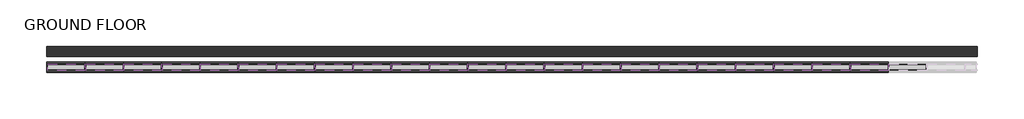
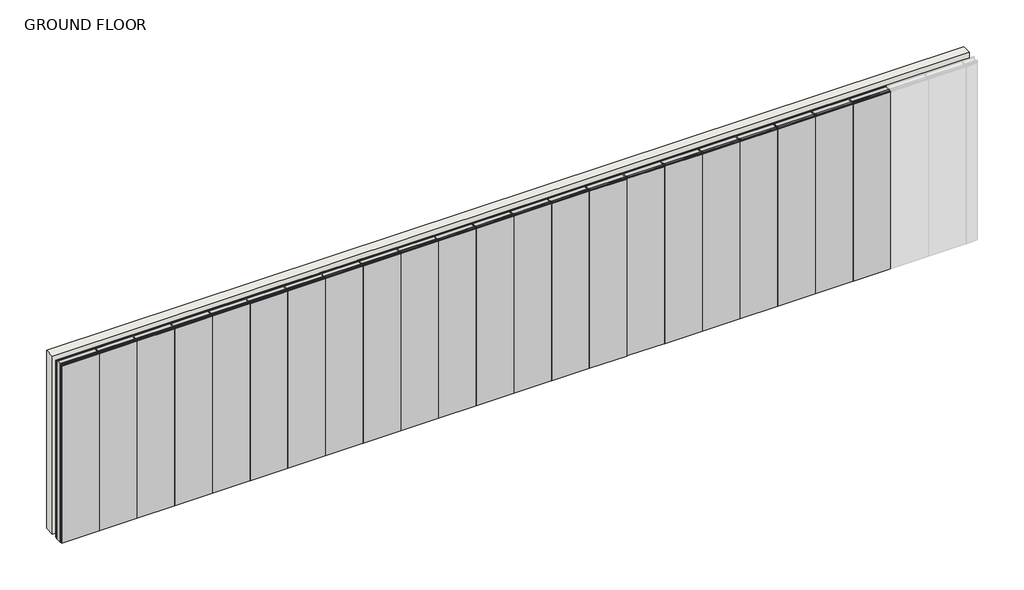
# One storey, part 1 of 2: 67 members, 22 plates, 1 wall.
"""IFC4 building model written with IfcOpenShell, lengths in millimetres."""

from ifc_helpers import new_model, si_unit, origin, origin_with_axes, place, context, project, spatial, polyline, outline, extrude, transform, mapped, element, save
from components import rectangular_mullion_stud_mullion_102mm_93af41ff, rectangular_mullion_stud_mullion_102mm_e6d93921, rectangular_mullion_stud_mullion_102mm_0e5ab9cc, rectangular_mullion_stud_mullion_102mm_f78c933b, plate_2_layer_30mm_drywall_panels_162mm_d42060e6

model = new_model("IFC4")

# Units and contexts
model_context = context("Model", 3, world=origin())
ifc_project = project(units=[si_unit("LENGTHUNIT", "METRE", prefix="MILLI")], contexts=[model_context])

# Site, building, storey
site = spatial("IfcSite", under=ifc_project)
building = spatial("IfcBuilding", under=site)
storey = spatial("IfcBuildingStorey", under=building, Name="GROUND FLOOR", Elevation=0.0)

# Members
placement = place(None, origin())
rectangular_mullion_stud_mullion_102mm_shape = rectangular_mullion_stud_mullion_102mm_93af41ff(model_context)
element("IfcMember", 1, ObjectType="Rectangular Mullion : Stud Mullion - 102mm", at=placement, inside=storey, context=model_context, shape_type="MappedRepresentation", body=[
    mapped(rectangular_mullion_stud_mullion_102mm_shape, transform((61654.5186508, -55221.4010443, 0.0), x_axis=(0.0, 0.0, -1.0), y_axis=(0.0, -1.0, 0.0), z_axis=(-1.0, 0.0, 0.0))),
])
element("IfcMember", 2, ObjectType="Rectangular Mullion : Stud Mullion - 102mm", at=placement, inside=storey, context=model_context, shape_type="MappedRepresentation", body=[
    mapped(rectangular_mullion_stud_mullion_102mm_shape, transform((62254.5186511, -55221.4010443, 0.0), x_axis=(0.0, 0.0, -1.0), y_axis=(0.0, -1.0, 0.0), z_axis=(-1.0, 0.0, 0.0))),
])
element("IfcMember", 3, ObjectType="Rectangular Mullion : Stud Mullion - 102mm", at=placement, inside=storey, context=model_context, shape_type="MappedRepresentation", body=[
    mapped(rectangular_mullion_stud_mullion_102mm_shape, transform((62854.5186511, -55221.4010443, 0.0), x_axis=(0.0, 0.0, -1.0), y_axis=(0.0, -1.0, 0.0), z_axis=(-1.0, 0.0, 0.0))),
])
element("IfcMember", 4, ObjectType="Rectangular Mullion : Stud Mullion - 102mm", at=placement, inside=storey, context=model_context, shape_type="MappedRepresentation", body=[
    mapped(rectangular_mullion_stud_mullion_102mm_shape, transform((63454.5186511, -55221.4010443, 0.0), x_axis=(0.0, 0.0, -1.0), y_axis=(0.0, -1.0, 0.0), z_axis=(-1.0, 0.0, 0.0))),
])
element("IfcMember", 5, ObjectType="Rectangular Mullion : Stud Mullion - 102mm", at=placement, inside=storey, context=model_context, shape_type="MappedRepresentation", body=[
    mapped(rectangular_mullion_stud_mullion_102mm_shape, transform((64054.5186511, -55221.4010443, 0.0), x_axis=(0.0, 0.0, -1.0), y_axis=(0.0, -1.0, 0.0), z_axis=(-1.0, 0.0, 0.0))),
])
element("IfcMember", 6, ObjectType="Rectangular Mullion : Stud Mullion - 102mm", at=placement, inside=storey, context=model_context, shape_type="MappedRepresentation", body=[
    mapped(rectangular_mullion_stud_mullion_102mm_shape, transform((64654.5186511, -55221.4010443, 0.0), x_axis=(0.0, 0.0, -1.0), y_axis=(0.0, -1.0, 0.0), z_axis=(-1.0, 0.0, 0.0))),
])
element("IfcMember", 7, ObjectType="Rectangular Mullion : Stud Mullion - 102mm", at=placement, inside=storey, context=model_context, shape_type="MappedRepresentation", body=[
    mapped(rectangular_mullion_stud_mullion_102mm_shape, transform((65254.5186511, -55221.4010443, 0.0), x_axis=(0.0, 0.0, -1.0), y_axis=(0.0, -1.0, 0.0), z_axis=(-1.0, 0.0, 0.0))),
])
element("IfcMember", 8, ObjectType="Rectangular Mullion : Stud Mullion - 102mm", at=placement, inside=storey, context=model_context, shape_type="MappedRepresentation", body=[
    mapped(rectangular_mullion_stud_mullion_102mm_shape, transform((65854.5186511, -55221.4010443, 0.0), x_axis=(0.0, 0.0, -1.0), y_axis=(0.0, -1.0, 0.0), z_axis=(-1.0, 0.0, 0.0))),
])
element("IfcMember", 9, ObjectType="Rectangular Mullion : Stud Mullion - 102mm", at=placement, inside=storey, context=model_context, shape_type="MappedRepresentation", body=[
    mapped(rectangular_mullion_stud_mullion_102mm_shape, transform((66454.5186511, -55221.4010443, 0.0), x_axis=(0.0, 0.0, -1.0), y_axis=(0.0, -1.0, 0.0), z_axis=(-1.0, 0.0, 0.0))),
])
element("IfcMember", 10, ObjectType="Rectangular Mullion : Stud Mullion - 102mm", at=placement, inside=storey, context=model_context, shape_type="MappedRepresentation", body=[
    mapped(rectangular_mullion_stud_mullion_102mm_shape, transform((67054.5186511, -55221.4010443, 0.0), x_axis=(0.0, 0.0, -1.0), y_axis=(0.0, -1.0, 0.0), z_axis=(-1.0, 0.0, 0.0))),
])
element("IfcMember", 11, ObjectType="Rectangular Mullion : Stud Mullion - 102mm", at=placement, inside=storey, context=model_context, shape_type="MappedRepresentation", body=[
    mapped(rectangular_mullion_stud_mullion_102mm_shape, transform((67654.5186511, -55221.4010443, 0.0), x_axis=(0.0, 0.0, -1.0), y_axis=(0.0, -1.0, 0.0), z_axis=(-1.0, 0.0, 0.0))),
])
element("IfcMember", 12, ObjectType="Rectangular Mullion : Stud Mullion - 102mm", at=placement, inside=storey, context=model_context, shape_type="MappedRepresentation", body=[
    mapped(rectangular_mullion_stud_mullion_102mm_shape, transform((68254.5186511, -55221.4010443, 0.0), x_axis=(0.0, 0.0, -1.0), y_axis=(0.0, -1.0, 0.0), z_axis=(-1.0, 0.0, 0.0))),
])
element("IfcMember", 13, ObjectType="Rectangular Mullion : Stud Mullion - 102mm", at=placement, inside=storey, context=model_context, shape_type="MappedRepresentation", body=[
    mapped(rectangular_mullion_stud_mullion_102mm_shape, transform((68854.5186511, -55221.4010443, 0.0), x_axis=(0.0, 0.0, -1.0), y_axis=(0.0, -1.0, 0.0), z_axis=(-1.0, 0.0, 0.0))),
])
element("IfcMember", 14, ObjectType="Rectangular Mullion : Stud Mullion - 102mm", at=placement, inside=storey, context=model_context, shape_type="MappedRepresentation", body=[
    mapped(rectangular_mullion_stud_mullion_102mm_shape, transform((69454.5186511, -55221.4010443, 0.0), x_axis=(0.0, 0.0, -1.0), y_axis=(0.0, -1.0, 0.0), z_axis=(-1.0, 0.0, 0.0))),
])
element("IfcMember", 15, ObjectType="Rectangular Mullion : Stud Mullion - 102mm", at=placement, inside=storey, context=model_context, shape_type="MappedRepresentation", body=[
    mapped(rectangular_mullion_stud_mullion_102mm_shape, transform((70054.5186511, -55221.4010443, 0.0), x_axis=(0.0, 0.0, -1.0), y_axis=(0.0, -1.0, 0.0), z_axis=(-1.0, 0.0, 0.0))),
])
element("IfcMember", 16, ObjectType="Rectangular Mullion : Stud Mullion - 102mm", at=placement, inside=storey, context=model_context, shape_type="MappedRepresentation", body=[
    mapped(rectangular_mullion_stud_mullion_102mm_shape, transform((70654.5186511, -55221.4010443, 0.0), x_axis=(0.0, 0.0, -1.0), y_axis=(0.0, -1.0, 0.0), z_axis=(-1.0, 0.0, 0.0))),
])
element("IfcMember", 17, ObjectType="Rectangular Mullion : Stud Mullion - 102mm", at=placement, inside=storey, context=model_context, shape_type="MappedRepresentation", body=[
    mapped(rectangular_mullion_stud_mullion_102mm_shape, transform((71254.5186511, -55221.4010443, 0.0), x_axis=(0.0, 0.0, -1.0), y_axis=(0.0, -1.0, 0.0), z_axis=(-1.0, 0.0, 0.0))),
])
element("IfcMember", 18, ObjectType="Rectangular Mullion : Stud Mullion - 102mm", at=placement, inside=storey, context=model_context, shape_type="MappedRepresentation", body=[
    mapped(rectangular_mullion_stud_mullion_102mm_shape, transform((71854.5186511, -55221.4010443, 0.0), x_axis=(0.0, 0.0, -1.0), y_axis=(0.0, -1.0, 0.0), z_axis=(-1.0, 0.0, 0.0))),
])
element("IfcMember", 19, ObjectType="Rectangular Mullion : Stud Mullion - 102mm", at=placement, inside=storey, context=model_context, shape_type="MappedRepresentation", body=[
    mapped(rectangular_mullion_stud_mullion_102mm_shape, transform((72454.5186511, -55221.4010443, 0.0), x_axis=(0.0, 0.0, -1.0), y_axis=(0.0, -1.0, 0.0), z_axis=(-1.0, 0.0, 0.0))),
])
element("IfcMember", 20, ObjectType="Rectangular Mullion : Stud Mullion - 102mm", at=placement, inside=storey, context=model_context, shape_type="MappedRepresentation", body=[
    mapped(rectangular_mullion_stud_mullion_102mm_shape, transform((73054.5186511, -55221.4010443, 0.0), x_axis=(0.0, 0.0, -1.0), y_axis=(0.0, -1.0, 0.0), z_axis=(-1.0, 0.0, 0.0))),
])
element("IfcMember", 21, ObjectType="Rectangular Mullion : Stud Mullion - 102mm", at=placement, inside=storey, context=model_context, shape_type="MappedRepresentation", body=[
    mapped(rectangular_mullion_stud_mullion_102mm_shape, transform((73654.5186511, -55221.4010443, 0.0), x_axis=(0.0, 0.0, -1.0), y_axis=(0.0, -1.0, 0.0), z_axis=(-1.0, 0.0, 0.0))),
])
element("IfcMember", 22, ObjectType="Rectangular Mullion : Stud Mullion - 102mm", at=placement, inside=storey, context=model_context, shape_type="MappedRepresentation", body=[
    mapped(rectangular_mullion_stud_mullion_102mm_shape, transform((74254.5186511, -55221.4010443, 0.0), x_axis=(0.0, 0.0, -1.0), y_axis=(0.0, -1.0, 0.0), z_axis=(-1.0, 0.0, 0.0))),
])
element("IfcMember", 23, ObjectType="Rectangular Mullion : Stud Mullion - 102mm", at=placement, inside=storey, context=model_context, shape_type="MappedRepresentation", body=[
    mapped(rectangular_mullion_stud_mullion_102mm_shape, transform((74854.5186511, -55221.4010443, 0.0), x_axis=(0.0, 0.0, -1.0), y_axis=(0.0, -1.0, 0.0), z_axis=(-1.0, 0.0, 0.0))),
])
rectangular_mullion_stud_mullion_102mm_2_shape = rectangular_mullion_stud_mullion_102mm_e6d93921(model_context)
element("IfcMember", 24, ObjectType="Rectangular Mullion : Stud Mullion - 102mm", at=placement, inside=storey, context=model_context, shape_type="MappedRepresentation", body=[
    mapped(rectangular_mullion_stud_mullion_102mm_2_shape, transform((61635.5186508, -55221.4010443, 3000.0), x_axis=(-1.0, 0.0, 0.0), y_axis=(0.0, -1.0, 0.0), z_axis=(0.0, 0.0, 1.0))),
])
rectangular_mullion_stud_mullion_102mm_3_shape = rectangular_mullion_stud_mullion_102mm_0e5ab9cc(model_context)
element("IfcMember", 25, ObjectType="Rectangular Mullion : Stud Mullion - 102mm", at=placement, inside=storey, context=model_context, shape_type="MappedRepresentation", body=[
    mapped(rectangular_mullion_stud_mullion_102mm_3_shape, transform((62235.5186511, -55221.4010443, 3000.0), x_axis=(0.0, 0.0, 1.0), y_axis=(0.0, -1.0, 0.0), z_axis=(1.0, 0.0, 0.0))),
])
element("IfcMember", 26, ObjectType="Rectangular Mullion : Stud Mullion - 102mm", at=placement, inside=storey, context=model_context, shape_type="MappedRepresentation", body=[
    mapped(rectangular_mullion_stud_mullion_102mm_3_shape, transform((62835.5186511, -55221.4010443, 3000.0), x_axis=(0.0, 0.0, 1.0), y_axis=(0.0, -1.0, 0.0), z_axis=(1.0, 0.0, 0.0))),
])
element("IfcMember", 27, ObjectType="Rectangular Mullion : Stud Mullion - 102mm", at=placement, inside=storey, context=model_context, shape_type="MappedRepresentation", body=[
    mapped(rectangular_mullion_stud_mullion_102mm_3_shape, transform((63435.5186511, -55221.4010443, 3000.0), x_axis=(0.0, 0.0, 1.0), y_axis=(0.0, -1.0, 0.0), z_axis=(1.0, 0.0, 0.0))),
])
element("IfcMember", 28, ObjectType="Rectangular Mullion : Stud Mullion - 102mm", at=placement, inside=storey, context=model_context, shape_type="MappedRepresentation", body=[
    mapped(rectangular_mullion_stud_mullion_102mm_3_shape, transform((64035.5186511, -55221.4010443, 3000.0), x_axis=(0.0, 0.0, 1.0), y_axis=(0.0, -1.0, 0.0), z_axis=(1.0, 0.0, 0.0))),
])
element("IfcMember", 29, ObjectType="Rectangular Mullion : Stud Mullion - 102mm", at=placement, inside=storey, context=model_context, shape_type="MappedRepresentation", body=[
    mapped(rectangular_mullion_stud_mullion_102mm_3_shape, transform((64635.5186511, -55221.4010443, 3000.0), x_axis=(0.0, 0.0, 1.0), y_axis=(0.0, -1.0, 0.0), z_axis=(1.0, 0.0, 0.0))),
])
element("IfcMember", 30, ObjectType="Rectangular Mullion : Stud Mullion - 102mm", at=placement, inside=storey, context=model_context, shape_type="MappedRepresentation", body=[
    mapped(rectangular_mullion_stud_mullion_102mm_3_shape, transform((65235.5186511, -55221.4010443, 3000.0), x_axis=(0.0, 0.0, 1.0), y_axis=(0.0, -1.0, 0.0), z_axis=(1.0, 0.0, 0.0))),
])
element("IfcMember", 31, ObjectType="Rectangular Mullion : Stud Mullion - 102mm", at=placement, inside=storey, context=model_context, shape_type="MappedRepresentation", body=[
    mapped(rectangular_mullion_stud_mullion_102mm_3_shape, transform((65835.5186511, -55221.4010443, 3000.0), x_axis=(0.0, 0.0, 1.0), y_axis=(0.0, -1.0, 0.0), z_axis=(1.0, 0.0, 0.0))),
])
element("IfcMember", 32, ObjectType="Rectangular Mullion : Stud Mullion - 102mm", at=placement, inside=storey, context=model_context, shape_type="MappedRepresentation", body=[
    mapped(rectangular_mullion_stud_mullion_102mm_3_shape, transform((66435.5186511, -55221.4010443, 3000.0), x_axis=(0.0, 0.0, 1.0), y_axis=(0.0, -1.0, 0.0), z_axis=(1.0, 0.0, 0.0))),
])
element("IfcMember", 33, ObjectType="Rectangular Mullion : Stud Mullion - 102mm", at=placement, inside=storey, context=model_context, shape_type="MappedRepresentation", body=[
    mapped(rectangular_mullion_stud_mullion_102mm_3_shape, transform((67035.5186511, -55221.4010443, 3000.0), x_axis=(0.0, 0.0, 1.0), y_axis=(0.0, -1.0, 0.0), z_axis=(1.0, 0.0, 0.0))),
])
element("IfcMember", 34, ObjectType="Rectangular Mullion : Stud Mullion - 102mm", at=placement, inside=storey, context=model_context, shape_type="MappedRepresentation", body=[
    mapped(rectangular_mullion_stud_mullion_102mm_3_shape, transform((67635.5186511, -55221.4010443, 3000.0), x_axis=(0.0, 0.0, 1.0), y_axis=(0.0, -1.0, 0.0), z_axis=(1.0, 0.0, 0.0))),
])
element("IfcMember", 35, ObjectType="Rectangular Mullion : Stud Mullion - 102mm", at=placement, inside=storey, context=model_context, shape_type="MappedRepresentation", body=[
    mapped(rectangular_mullion_stud_mullion_102mm_3_shape, transform((68235.5186511, -55221.4010443, 3000.0), x_axis=(0.0, 0.0, 1.0), y_axis=(0.0, -1.0, 0.0), z_axis=(1.0, 0.0, 0.0))),
])
element("IfcMember", 36, ObjectType="Rectangular Mullion : Stud Mullion - 102mm", at=placement, inside=storey, context=model_context, shape_type="MappedRepresentation", body=[
    mapped(rectangular_mullion_stud_mullion_102mm_3_shape, transform((68835.5186511, -55221.4010443, 3000.0), x_axis=(0.0, 0.0, 1.0), y_axis=(0.0, -1.0, 0.0), z_axis=(1.0, 0.0, 0.0))),
])
element("IfcMember", 37, ObjectType="Rectangular Mullion : Stud Mullion - 102mm", at=placement, inside=storey, context=model_context, shape_type="MappedRepresentation", body=[
    mapped(rectangular_mullion_stud_mullion_102mm_3_shape, transform((69435.5186511, -55221.4010443, 3000.0), x_axis=(0.0, 0.0, 1.0), y_axis=(0.0, -1.0, 0.0), z_axis=(1.0, 0.0, 0.0))),
])
element("IfcMember", 38, ObjectType="Rectangular Mullion : Stud Mullion - 102mm", at=placement, inside=storey, context=model_context, shape_type="MappedRepresentation", body=[
    mapped(rectangular_mullion_stud_mullion_102mm_3_shape, transform((70035.5186511, -55221.4010443, 3000.0), x_axis=(0.0, 0.0, 1.0), y_axis=(0.0, -1.0, 0.0), z_axis=(1.0, 0.0, 0.0))),
])
element("IfcMember", 39, ObjectType="Rectangular Mullion : Stud Mullion - 102mm", at=placement, inside=storey, context=model_context, shape_type="MappedRepresentation", body=[
    mapped(rectangular_mullion_stud_mullion_102mm_3_shape, transform((70635.5186511, -55221.4010443, 3000.0), x_axis=(0.0, 0.0, 1.0), y_axis=(0.0, -1.0, 0.0), z_axis=(1.0, 0.0, 0.0))),
])
element("IfcMember", 40, ObjectType="Rectangular Mullion : Stud Mullion - 102mm", at=placement, inside=storey, context=model_context, shape_type="MappedRepresentation", body=[
    mapped(rectangular_mullion_stud_mullion_102mm_3_shape, transform((71235.5186511, -55221.4010443, 3000.0), x_axis=(0.0, 0.0, 1.0), y_axis=(0.0, -1.0, 0.0), z_axis=(1.0, 0.0, 0.0))),
])
element("IfcMember", 41, ObjectType="Rectangular Mullion : Stud Mullion - 102mm", at=placement, inside=storey, context=model_context, shape_type="MappedRepresentation", body=[
    mapped(rectangular_mullion_stud_mullion_102mm_3_shape, transform((71835.5186511, -55221.4010443, 3000.0), x_axis=(0.0, 0.0, 1.0), y_axis=(0.0, -1.0, 0.0), z_axis=(1.0, 0.0, 0.0))),
])
element("IfcMember", 42, ObjectType="Rectangular Mullion : Stud Mullion - 102mm", at=placement, inside=storey, context=model_context, shape_type="MappedRepresentation", body=[
    mapped(rectangular_mullion_stud_mullion_102mm_3_shape, transform((72435.5186511, -55221.4010443, 3000.0), x_axis=(0.0, 0.0, 1.0), y_axis=(0.0, -1.0, 0.0), z_axis=(1.0, 0.0, 0.0))),
])
element("IfcMember", 43, ObjectType="Rectangular Mullion : Stud Mullion - 102mm", at=placement, inside=storey, context=model_context, shape_type="MappedRepresentation", body=[
    mapped(rectangular_mullion_stud_mullion_102mm_3_shape, transform((73035.5186511, -55221.4010443, 3000.0), x_axis=(0.0, 0.0, 1.0), y_axis=(0.0, -1.0, 0.0), z_axis=(1.0, 0.0, 0.0))),
])
element("IfcMember", 44, ObjectType="Rectangular Mullion : Stud Mullion - 102mm", at=placement, inside=storey, context=model_context, shape_type="MappedRepresentation", body=[
    mapped(rectangular_mullion_stud_mullion_102mm_3_shape, transform((73635.5186511, -55221.4010443, 3000.0), x_axis=(0.0, 0.0, 1.0), y_axis=(0.0, -1.0, 0.0), z_axis=(1.0, 0.0, 0.0))),
])
element("IfcMember", 45, ObjectType="Rectangular Mullion : Stud Mullion - 102mm", at=placement, inside=storey, context=model_context, shape_type="MappedRepresentation", body=[
    mapped(rectangular_mullion_stud_mullion_102mm_3_shape, transform((74235.5186511, -55221.4010443, 3000.0), x_axis=(0.0, 0.0, 1.0), y_axis=(0.0, -1.0, 0.0), z_axis=(1.0, 0.0, 0.0))),
])
element("IfcMember", 46, ObjectType="Rectangular Mullion : Stud Mullion - 102mm", at=placement, inside=storey, context=model_context, shape_type="MappedRepresentation", body=[
    mapped(rectangular_mullion_stud_mullion_102mm_3_shape, transform((74835.5186511, -55221.4010443, 3000.0), x_axis=(0.0, 0.0, 1.0), y_axis=(0.0, -1.0, 0.0), z_axis=(1.0, 0.0, 0.0))),
])
rectangular_mullion_stud_mullion_102mm_4_shape = rectangular_mullion_stud_mullion_102mm_f78c933b(model_context)
element("IfcMember", 47, ObjectType="Rectangular Mullion : Stud Mullion - 102mm", at=placement, inside=storey, context=model_context, shape_type="MappedRepresentation", body=[
    mapped(rectangular_mullion_stud_mullion_102mm_4_shape, transform((62245.0186511, -55221.4010443, 0.0), x_axis=(1.0, 0.0, 0.0), y_axis=(0.0, -1.0, 0.0), z_axis=(0.0, 0.0, -1.0))),
])
element("IfcMember", 48, ObjectType="Rectangular Mullion : Stud Mullion - 102mm", at=placement, inside=storey, context=model_context, shape_type="MappedRepresentation", body=[
    mapped(rectangular_mullion_stud_mullion_102mm_4_shape, transform((62845.0186511, -55221.4010443, 0.0), x_axis=(1.0, 0.0, 0.0), y_axis=(0.0, -1.0, 0.0), z_axis=(0.0, 0.0, -1.0))),
])
element("IfcMember", 49, ObjectType="Rectangular Mullion : Stud Mullion - 102mm", at=placement, inside=storey, context=model_context, shape_type="MappedRepresentation", body=[
    mapped(rectangular_mullion_stud_mullion_102mm_4_shape, transform((63445.0186511, -55221.4010443, 0.0), x_axis=(1.0, 0.0, 0.0), y_axis=(0.0, -1.0, 0.0), z_axis=(0.0, 0.0, -1.0))),
])
element("IfcMember", 50, ObjectType="Rectangular Mullion : Stud Mullion - 102mm", at=placement, inside=storey, context=model_context, shape_type="MappedRepresentation", body=[
    mapped(rectangular_mullion_stud_mullion_102mm_4_shape, transform((64045.0186511, -55221.4010443, 0.0), x_axis=(1.0, 0.0, 0.0), y_axis=(0.0, -1.0, 0.0), z_axis=(0.0, 0.0, -1.0))),
])
element("IfcMember", 51, ObjectType="Rectangular Mullion : Stud Mullion - 102mm", at=placement, inside=storey, context=model_context, shape_type="MappedRepresentation", body=[
    mapped(rectangular_mullion_stud_mullion_102mm_4_shape, transform((64645.0186511, -55221.4010443, 0.0), x_axis=(1.0, 0.0, 0.0), y_axis=(0.0, -1.0, 0.0), z_axis=(0.0, 0.0, -1.0))),
])
element("IfcMember", 52, ObjectType="Rectangular Mullion : Stud Mullion - 102mm", at=placement, inside=storey, context=model_context, shape_type="MappedRepresentation", body=[
    mapped(rectangular_mullion_stud_mullion_102mm_4_shape, transform((65245.0186511, -55221.4010443, 0.0), x_axis=(1.0, 0.0, 0.0), y_axis=(0.0, -1.0, 0.0), z_axis=(0.0, 0.0, -1.0))),
])
element("IfcMember", 53, ObjectType="Rectangular Mullion : Stud Mullion - 102mm", at=placement, inside=storey, context=model_context, shape_type="MappedRepresentation", body=[
    mapped(rectangular_mullion_stud_mullion_102mm_4_shape, transform((65845.0186511, -55221.4010443, 0.0), x_axis=(1.0, 0.0, 0.0), y_axis=(0.0, -1.0, 0.0), z_axis=(0.0, 0.0, -1.0))),
])
element("IfcMember", 54, ObjectType="Rectangular Mullion : Stud Mullion - 102mm", at=placement, inside=storey, context=model_context, shape_type="MappedRepresentation", body=[
    mapped(rectangular_mullion_stud_mullion_102mm_4_shape, transform((66445.0186511, -55221.4010443, 0.0), x_axis=(1.0, 0.0, 0.0), y_axis=(0.0, -1.0, 0.0), z_axis=(0.0, 0.0, -1.0))),
])
element("IfcMember", 55, ObjectType="Rectangular Mullion : Stud Mullion - 102mm", at=placement, inside=storey, context=model_context, shape_type="MappedRepresentation", body=[
    mapped(rectangular_mullion_stud_mullion_102mm_4_shape, transform((67045.0186511, -55221.4010443, 0.0), x_axis=(1.0, 0.0, 0.0), y_axis=(0.0, -1.0, 0.0), z_axis=(0.0, 0.0, -1.0))),
])
element("IfcMember", 56, ObjectType="Rectangular Mullion : Stud Mullion - 102mm", at=placement, inside=storey, context=model_context, shape_type="MappedRepresentation", body=[
    mapped(rectangular_mullion_stud_mullion_102mm_4_shape, transform((67645.0186511, -55221.4010443, 0.0), x_axis=(1.0, 0.0, 0.0), y_axis=(0.0, -1.0, 0.0), z_axis=(0.0, 0.0, -1.0))),
])
element("IfcMember", 57, ObjectType="Rectangular Mullion : Stud Mullion - 102mm", at=placement, inside=storey, context=model_context, shape_type="MappedRepresentation", body=[
    mapped(rectangular_mullion_stud_mullion_102mm_4_shape, transform((68245.0186511, -55221.4010443, 0.0), x_axis=(1.0, 0.0, 0.0), y_axis=(0.0, -1.0, 0.0), z_axis=(0.0, 0.0, -1.0))),
])
element("IfcMember", 58, ObjectType="Rectangular Mullion : Stud Mullion - 102mm", at=placement, inside=storey, context=model_context, shape_type="MappedRepresentation", body=[
    mapped(rectangular_mullion_stud_mullion_102mm_4_shape, transform((68845.0186511, -55221.4010443, 0.0), x_axis=(1.0, 0.0, 0.0), y_axis=(0.0, -1.0, 0.0), z_axis=(0.0, 0.0, -1.0))),
])
element("IfcMember", 59, ObjectType="Rectangular Mullion : Stud Mullion - 102mm", at=placement, inside=storey, context=model_context, shape_type="MappedRepresentation", body=[
    mapped(rectangular_mullion_stud_mullion_102mm_4_shape, transform((69445.0186511, -55221.4010443, 0.0), x_axis=(1.0, 0.0, 0.0), y_axis=(0.0, -1.0, 0.0), z_axis=(0.0, 0.0, -1.0))),
])
element("IfcMember", 60, ObjectType="Rectangular Mullion : Stud Mullion - 102mm", at=placement, inside=storey, context=model_context, shape_type="MappedRepresentation", body=[
    mapped(rectangular_mullion_stud_mullion_102mm_4_shape, transform((70045.0186511, -55221.4010443, 0.0), x_axis=(1.0, 0.0, 0.0), y_axis=(0.0, -1.0, 0.0), z_axis=(0.0, 0.0, -1.0))),
])
element("IfcMember", 61, ObjectType="Rectangular Mullion : Stud Mullion - 102mm", at=placement, inside=storey, context=model_context, shape_type="MappedRepresentation", body=[
    mapped(rectangular_mullion_stud_mullion_102mm_4_shape, transform((70645.0186511, -55221.4010443, 0.0), x_axis=(1.0, 0.0, 0.0), y_axis=(0.0, -1.0, 0.0), z_axis=(0.0, 0.0, -1.0))),
])
element("IfcMember", 62, ObjectType="Rectangular Mullion : Stud Mullion - 102mm", at=placement, inside=storey, context=model_context, shape_type="MappedRepresentation", body=[
    mapped(rectangular_mullion_stud_mullion_102mm_4_shape, transform((71245.0186511, -55221.4010443, 0.0), x_axis=(1.0, 0.0, 0.0), y_axis=(0.0, -1.0, 0.0), z_axis=(0.0, 0.0, -1.0))),
])
element("IfcMember", 63, ObjectType="Rectangular Mullion : Stud Mullion - 102mm", at=placement, inside=storey, context=model_context, shape_type="MappedRepresentation", body=[
    mapped(rectangular_mullion_stud_mullion_102mm_4_shape, transform((71845.0186511, -55221.4010443, 0.0), x_axis=(1.0, 0.0, 0.0), y_axis=(0.0, -1.0, 0.0), z_axis=(0.0, 0.0, -1.0))),
])
element("IfcMember", 64, ObjectType="Rectangular Mullion : Stud Mullion - 102mm", at=placement, inside=storey, context=model_context, shape_type="MappedRepresentation", body=[
    mapped(rectangular_mullion_stud_mullion_102mm_4_shape, transform((72445.0186511, -55221.4010443, 0.0), x_axis=(1.0, 0.0, 0.0), y_axis=(0.0, -1.0, 0.0), z_axis=(0.0, 0.0, -1.0))),
])
element("IfcMember", 65, ObjectType="Rectangular Mullion : Stud Mullion - 102mm", at=placement, inside=storey, context=model_context, shape_type="MappedRepresentation", body=[
    mapped(rectangular_mullion_stud_mullion_102mm_4_shape, transform((73045.0186511, -55221.4010443, 0.0), x_axis=(1.0, 0.0, 0.0), y_axis=(0.0, -1.0, 0.0), z_axis=(0.0, 0.0, -1.0))),
])
element("IfcMember", 66, ObjectType="Rectangular Mullion : Stud Mullion - 102mm", at=placement, inside=storey, context=model_context, shape_type="MappedRepresentation", body=[
    mapped(rectangular_mullion_stud_mullion_102mm_4_shape, transform((73645.0186511, -55221.4010443, 0.0), x_axis=(1.0, 0.0, 0.0), y_axis=(0.0, -1.0, 0.0), z_axis=(0.0, 0.0, -1.0))),
])
element("IfcMember", 67, ObjectType="Rectangular Mullion : Stud Mullion - 102mm", at=placement, inside=storey, context=model_context, shape_type="MappedRepresentation", body=[
    mapped(rectangular_mullion_stud_mullion_102mm_4_shape, transform((74245.0186511, -55221.4010443, 0.0), x_axis=(1.0, 0.0, 0.0), y_axis=(0.0, -1.0, 0.0), z_axis=(0.0, 0.0, -1.0))),
])

# Plates
plate_2_layer_30mm_drywall_panels_162mm_shape = plate_2_layer_30mm_drywall_panels_162mm_d42060e6(model_context)
element("IfcPlate", 68, ObjectType="4 LayerS - Drywall Panels : 2 Layer - 30mm Drywall Panels 162mm", at=placement, inside=storey, context=model_context, shape_type="MappedRepresentation", body=[
    mapped(plate_2_layer_30mm_drywall_panels_162mm_shape, transform((61936.318651, -55221.4010443, 1.6), x_axis=(1.0, 0.0, 0.0), y_axis=(0.0, 1.0, 0.0), z_axis=(0.0, 0.0, 1.0))),
])
element("IfcPlate", 69, ObjectType="4 LayerS - Drywall Panels : 2 Layer - 30mm Drywall Panels 162mm", at=placement, inside=storey, context=model_context, shape_type="MappedRepresentation", body=[
    mapped(plate_2_layer_30mm_drywall_panels_162mm_shape, transform((62536.3186511, -55221.4010443, 1.6), x_axis=(1.0, 0.0, 0.0), y_axis=(0.0, 1.0, 0.0), z_axis=(0.0, 0.0, 1.0))),
])
element("IfcPlate", 70, ObjectType="4 LayerS - Drywall Panels : 2 Layer - 30mm Drywall Panels 162mm", at=placement, inside=storey, context=model_context, shape_type="MappedRepresentation", body=[
    mapped(plate_2_layer_30mm_drywall_panels_162mm_shape, transform((63136.3186511, -55221.4010443, 1.6), x_axis=(1.0, 0.0, 0.0), y_axis=(0.0, 1.0, 0.0), z_axis=(0.0, 0.0, 1.0))),
])
element("IfcPlate", 71, ObjectType="4 LayerS - Drywall Panels : 2 Layer - 30mm Drywall Panels 162mm", at=placement, inside=storey, context=model_context, shape_type="MappedRepresentation", body=[
    mapped(plate_2_layer_30mm_drywall_panels_162mm_shape, transform((63736.3186511, -55221.4010443, 1.6), x_axis=(1.0, 0.0, 0.0), y_axis=(0.0, 1.0, 0.0), z_axis=(0.0, 0.0, 1.0))),
])
element("IfcPlate", 72, ObjectType="4 LayerS - Drywall Panels : 2 Layer - 30mm Drywall Panels 162mm", at=placement, inside=storey, context=model_context, shape_type="MappedRepresentation", body=[
    mapped(plate_2_layer_30mm_drywall_panels_162mm_shape, transform((64336.3186511, -55221.4010443, 1.6), x_axis=(1.0, 0.0, 0.0), y_axis=(0.0, 1.0, 0.0), z_axis=(0.0, 0.0, 1.0))),
])
element("IfcPlate", 73, ObjectType="4 LayerS - Drywall Panels : 2 Layer - 30mm Drywall Panels 162mm", at=placement, inside=storey, context=model_context, shape_type="MappedRepresentation", body=[
    mapped(plate_2_layer_30mm_drywall_panels_162mm_shape, transform((64936.3186511, -55221.4010443, 1.6), x_axis=(1.0, 0.0, 0.0), y_axis=(0.0, 1.0, 0.0), z_axis=(0.0, 0.0, 1.0))),
])
element("IfcPlate", 74, ObjectType="4 LayerS - Drywall Panels : 2 Layer - 30mm Drywall Panels 162mm", at=placement, inside=storey, context=model_context, shape_type="MappedRepresentation", body=[
    mapped(plate_2_layer_30mm_drywall_panels_162mm_shape, transform((65536.3186511, -55221.4010443, 1.6), x_axis=(1.0, 0.0, 0.0), y_axis=(0.0, 1.0, 0.0), z_axis=(0.0, 0.0, 1.0))),
])
element("IfcPlate", 75, ObjectType="4 LayerS - Drywall Panels : 2 Layer - 30mm Drywall Panels 162mm", at=placement, inside=storey, context=model_context, shape_type="MappedRepresentation", body=[
    mapped(plate_2_layer_30mm_drywall_panels_162mm_shape, transform((66136.3186511, -55221.4010443, 1.6), x_axis=(1.0, 0.0, 0.0), y_axis=(0.0, 1.0, 0.0), z_axis=(0.0, 0.0, 1.0))),
])
element("IfcPlate", 76, ObjectType="4 LayerS - Drywall Panels : 2 Layer - 30mm Drywall Panels 162mm", at=placement, inside=storey, context=model_context, shape_type="MappedRepresentation", body=[
    mapped(plate_2_layer_30mm_drywall_panels_162mm_shape, transform((66736.3186511, -55221.4010443, 1.6), x_axis=(1.0, 0.0, 0.0), y_axis=(0.0, 1.0, 0.0), z_axis=(0.0, 0.0, 1.0))),
])
element("IfcPlate", 77, ObjectType="4 LayerS - Drywall Panels : 2 Layer - 30mm Drywall Panels 162mm", at=placement, inside=storey, context=model_context, shape_type="MappedRepresentation", body=[
    mapped(plate_2_layer_30mm_drywall_panels_162mm_shape, transform((67336.3186511, -55221.4010443, 1.6), x_axis=(1.0, 0.0, 0.0), y_axis=(0.0, 1.0, 0.0), z_axis=(0.0, 0.0, 1.0))),
])
element("IfcPlate", 78, ObjectType="4 LayerS - Drywall Panels : 2 Layer - 30mm Drywall Panels 162mm", at=placement, inside=storey, context=model_context, shape_type="MappedRepresentation", body=[
    mapped(plate_2_layer_30mm_drywall_panels_162mm_shape, transform((67936.3186511, -55221.4010443, 1.6), x_axis=(1.0, 0.0, 0.0), y_axis=(0.0, 1.0, 0.0), z_axis=(0.0, 0.0, 1.0))),
])
element("IfcPlate", 79, ObjectType="4 LayerS - Drywall Panels : 2 Layer - 30mm Drywall Panels 162mm", at=placement, inside=storey, context=model_context, shape_type="MappedRepresentation", body=[
    mapped(plate_2_layer_30mm_drywall_panels_162mm_shape, transform((68536.3186511, -55221.4010443, 1.6), x_axis=(1.0, 0.0, 0.0), y_axis=(0.0, 1.0, 0.0), z_axis=(0.0, 0.0, 1.0))),
])
element("IfcPlate", 80, ObjectType="4 LayerS - Drywall Panels : 2 Layer - 30mm Drywall Panels 162mm", at=placement, inside=storey, context=model_context, shape_type="MappedRepresentation", body=[
    mapped(plate_2_layer_30mm_drywall_panels_162mm_shape, transform((69136.3186511, -55221.4010443, 1.6), x_axis=(1.0, 0.0, 0.0), y_axis=(0.0, 1.0, 0.0), z_axis=(0.0, 0.0, 1.0))),
])
element("IfcPlate", 81, ObjectType="4 LayerS - Drywall Panels : 2 Layer - 30mm Drywall Panels 162mm", at=placement, inside=storey, context=model_context, shape_type="MappedRepresentation", body=[
    mapped(plate_2_layer_30mm_drywall_panels_162mm_shape, transform((69736.3186511, -55221.4010443, 1.6), x_axis=(1.0, 0.0, 0.0), y_axis=(0.0, 1.0, 0.0), z_axis=(0.0, 0.0, 1.0))),
])
element("IfcPlate", 82, ObjectType="4 LayerS - Drywall Panels : 2 Layer - 30mm Drywall Panels 162mm", at=placement, inside=storey, context=model_context, shape_type="MappedRepresentation", body=[
    mapped(plate_2_layer_30mm_drywall_panels_162mm_shape, transform((70336.3186511, -55221.4010443, 1.6), x_axis=(1.0, 0.0, 0.0), y_axis=(0.0, 1.0, 0.0), z_axis=(0.0, 0.0, 1.0))),
])
element("IfcPlate", 83, ObjectType="4 LayerS - Drywall Panels : 2 Layer - 30mm Drywall Panels 162mm", at=placement, inside=storey, context=model_context, shape_type="MappedRepresentation", body=[
    mapped(plate_2_layer_30mm_drywall_panels_162mm_shape, transform((70936.3186511, -55221.4010443, 1.6), x_axis=(1.0, 0.0, 0.0), y_axis=(0.0, 1.0, 0.0), z_axis=(0.0, 0.0, 1.0))),
])
element("IfcPlate", 84, ObjectType="4 LayerS - Drywall Panels : 2 Layer - 30mm Drywall Panels 162mm", at=placement, inside=storey, context=model_context, shape_type="MappedRepresentation", body=[
    mapped(plate_2_layer_30mm_drywall_panels_162mm_shape, transform((71536.3186511, -55221.4010443, 1.6), x_axis=(1.0, 0.0, 0.0), y_axis=(0.0, 1.0, 0.0), z_axis=(0.0, 0.0, 1.0))),
])
element("IfcPlate", 85, ObjectType="4 LayerS - Drywall Panels : 2 Layer - 30mm Drywall Panels 162mm", at=placement, inside=storey, context=model_context, shape_type="MappedRepresentation", body=[
    mapped(plate_2_layer_30mm_drywall_panels_162mm_shape, transform((72136.3186511, -55221.4010443, 1.6), x_axis=(1.0, 0.0, 0.0), y_axis=(0.0, 1.0, 0.0), z_axis=(0.0, 0.0, 1.0))),
])
element("IfcPlate", 86, ObjectType="4 LayerS - Drywall Panels : 2 Layer - 30mm Drywall Panels 162mm", at=placement, inside=storey, context=model_context, shape_type="MappedRepresentation", body=[
    mapped(plate_2_layer_30mm_drywall_panels_162mm_shape, transform((72736.3186511, -55221.4010443, 1.6), x_axis=(1.0, 0.0, 0.0), y_axis=(0.0, 1.0, 0.0), z_axis=(0.0, 0.0, 1.0))),
])
element("IfcPlate", 87, ObjectType="4 LayerS - Drywall Panels : 2 Layer - 30mm Drywall Panels 162mm", at=placement, inside=storey, context=model_context, shape_type="MappedRepresentation", body=[
    mapped(plate_2_layer_30mm_drywall_panels_162mm_shape, transform((73336.3186511, -55221.4010443, 1.6), x_axis=(1.0, 0.0, 0.0), y_axis=(0.0, 1.0, 0.0), z_axis=(0.0, 0.0, 1.0))),
])
element("IfcPlate", 88, ObjectType="4 LayerS - Drywall Panels : 2 Layer - 30mm Drywall Panels 162mm", at=placement, inside=storey, context=model_context, shape_type="MappedRepresentation", body=[
    mapped(plate_2_layer_30mm_drywall_panels_162mm_shape, transform((73936.3186511, -55221.4010443, 1.6), x_axis=(1.0, 0.0, 0.0), y_axis=(0.0, 1.0, 0.0), z_axis=(0.0, 0.0, 1.0))),
])
element("IfcPlate", 89, ObjectType="4 LayerS - Drywall Panels : 2 Layer - 30mm Drywall Panels 162mm", at=placement, inside=storey, context=model_context, shape_type="MappedRepresentation", body=[
    mapped(plate_2_layer_30mm_drywall_panels_162mm_shape, transform((74536.3186511, -55221.4010443, 1.6), x_axis=(1.0, 0.0, 0.0), y_axis=(0.0, 1.0, 0.0), z_axis=(0.0, 0.0, 1.0))),
])

# Wall
element("IfcWall", 90, ObjectType="PW11 - JUMBO AcousticWALL 102/120/S56", at=placement, inside=storey, context=model_context, shape_type="SweptSolid", body=[
    extrude(outline(polyline([(76235.5186508, -55052.4010443), (61635.5186508, -55052.4010443), (61635.5186508, -54890.4010443), (76235.5186508, -54890.4010443), (76235.5186508, -55052.4010443)])), origin_with_axes(), (0.0, 0.0, 1.0), 3000.0),
])

save(model, "model.ifc")
